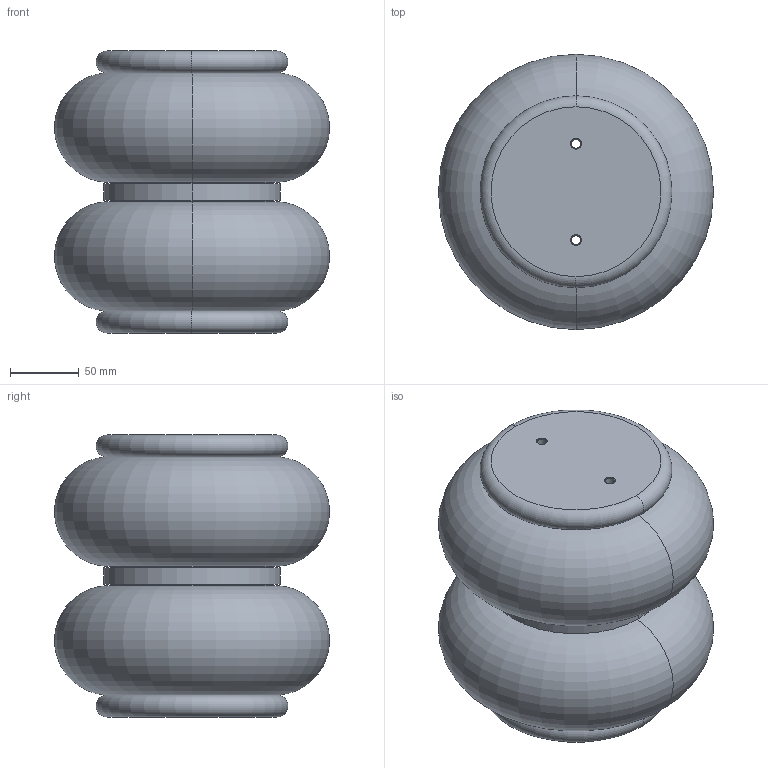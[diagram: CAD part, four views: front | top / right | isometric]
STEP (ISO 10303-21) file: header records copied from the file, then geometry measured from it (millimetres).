
FILE_DESCRIPTION((''),'2;1');
FILE_NAME('0822419042_MAX','2023-08-03T10:44:23',('VAU3HC'),(''),'CREO PARAMETRIC BY PTC INC, 2020044','CREO PARAMETRIC BY PTC INC, 2020044','');
FILE_SCHEMA(('CONFIG_CONTROL_DESIGN','SHAPE_APPEARANCE_LAYERS_GROUPS'));
Length unit declared in the file: millimetre
Products named in the file (1): 0822419042_MAX
Bounding box: 199.9 x 199.9 x 205 mm (x, y, z)
Volume: 3865351.4 mm3; surface area: 251499.1 mm2
Topology: 1 solids, 1 shells, 46 faces, 98 edges, 62 vertices
Faces by surface type: cylinder 18, plane 10, cone 10, torus 8
Entity records: 2069 total; most frequent: DIRECTION 260, CARTESIAN_POINT 206, ORIENTED_EDGE 196, PRESENTATION_STYLE_ASSIGNMENT 137, AXIS2_PLACEMENT_3D 116, STYLED_ITEM 103, CURVE_STYLE 98, EDGE_CURVE 98
